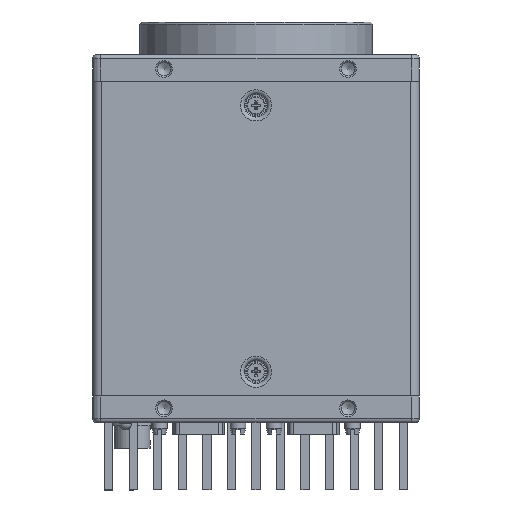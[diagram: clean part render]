
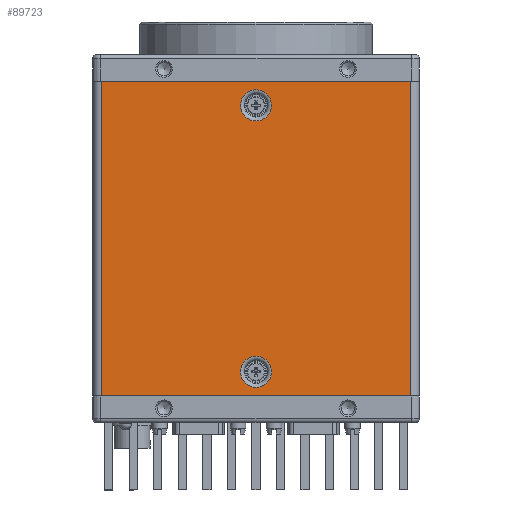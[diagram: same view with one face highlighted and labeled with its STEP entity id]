
A CAD part, front view. The second image highlights one B-rep face of the part: STEP entity #89723.
In plain terms, the highlighted planar face has unit normal (0, -1, 0).
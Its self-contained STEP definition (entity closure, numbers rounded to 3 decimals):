
#2310 = EDGE_CURVE ( 'NONE', #18532, #18532, #197748, .T. ) ;
#3753 = DIRECTION ( 'NONE',  ( 0., 1., 0. ) ) ;
#4557 = EDGE_CURVE ( 'NONE', #118723, #154666, #94814, .T. ) ;
#11563 = CARTESIAN_POINT ( 'NONE',  ( -37.9, -39.9, 5.5 ) ) ;
#13625 = LINE ( 'NONE', #69546, #224159 ) ;
#14819 = DIRECTION ( 'NONE',  ( 1., 0., 0. ) ) ;
#18532 = VERTEX_POINT ( 'NONE', #222763 ) ;
#27208 = VERTEX_POINT ( 'NONE', #11563 ) ;
#32084 = DIRECTION ( 'NONE',  ( 0., 0., 1. ) ) ;
#40086 = CARTESIAN_POINT ( 'NONE',  ( -37.9, -39.9, 82.5 ) ) ;
#49131 = CARTESIAN_POINT ( 'NONE',  ( 37.9, -39.9, 82.5 ) ) ;
#55792 = EDGE_LOOP ( 'NONE', ( #181644 ) ) ;
#56034 = LINE ( 'NONE', #133789, #225358 ) ;
#69546 = CARTESIAN_POINT ( 'NONE',  ( -37.9, -39.9, 5.5 ) ) ;
#69760 = DIRECTION ( 'NONE',  ( 0., 1., 0. ) ) ;
#72414 = EDGE_CURVE ( 'NONE', #143170, #118723, #98421, .T. ) ;
#79159 = DIRECTION ( 'NONE',  ( 0., 0., 1. ) ) ;
#84001 = CIRCLE ( 'NONE', #223837, 3.812 ) ;
#89133 = VECTOR ( 'NONE', #117857, 1000. ) ;
#89723 = ADVANCED_FACE ( 'NONE', ( #162196, #198631, #199822 ), #145132, .F. ) ;
#92912 = AXIS2_PLACEMENT_3D ( 'NONE', #96194, #3753, #79159 ) ;
#92928 = CARTESIAN_POINT ( 'NONE',  ( 0., -39.9, 76.6 ) ) ;
#94023 = EDGE_CURVE ( 'NONE', #103211, #103211, #84001, .T. ) ;
#94814 = LINE ( 'NONE', #223690, #225298 ) ;
#95796 = ORIENTED_EDGE ( 'NONE', *, *, #100319, .T. ) ;
#96008 = DIRECTION ( 'NONE',  ( 0., 0., -1. ) ) ;
#96194 = CARTESIAN_POINT ( 'NONE',  ( 0., -39.9, 11.4 ) ) ;
#98421 = LINE ( 'NONE', #40086, #89133 ) ;
#100319 = EDGE_CURVE ( 'NONE', #27208, #154666, #13625, .T. ) ;
#103211 = VERTEX_POINT ( 'NONE', #142110 ) ;
#112755 = CARTESIAN_POINT ( 'NONE',  ( -37.9, -39.9, 82.5 ) ) ;
#117857 = DIRECTION ( 'NONE',  ( 1., 0., 0. ) ) ;
#118723 = VERTEX_POINT ( 'NONE', #49131 ) ;
#133789 = CARTESIAN_POINT ( 'NONE',  ( -37.9, -39.9, 82.5 ) ) ;
#137667 = ORIENTED_EDGE ( 'NONE', *, *, #4557, .F. ) ;
#142110 = CARTESIAN_POINT ( 'NONE',  ( 0., -39.9, 80.412 ) ) ;
#143170 = VERTEX_POINT ( 'NONE', #112755 ) ;
#144416 = EDGE_LOOP ( 'NONE', ( #95796, #137667, #197935, #226775 ) ) ;
#144751 = ORIENTED_EDGE ( 'NONE', *, *, #2310, .T. ) ;
#145132 = PLANE ( 'NONE',  #222992 ) ;
#154666 = VERTEX_POINT ( 'NONE', #231687 ) ;
#162196 = FACE_BOUND ( 'NONE', #185551, .T. ) ;
#181644 = ORIENTED_EDGE ( 'NONE', *, *, #94023, .T. ) ;
#185551 = EDGE_LOOP ( 'NONE', ( #144751 ) ) ;
#186514 = DIRECTION ( 'NONE',  ( 0., 0., 1. ) ) ;
#197748 = CIRCLE ( 'NONE', #92912, 3.812 ) ;
#197935 = ORIENTED_EDGE ( 'NONE', *, *, #72414, .F. ) ;
#198631 = FACE_BOUND ( 'NONE', #55792, .T. ) ;
#199822 = FACE_OUTER_BOUND ( 'NONE', #144416, .T. ) ;
#214257 = EDGE_CURVE ( 'NONE', #143170, #27208, #56034, .T. ) ;
#222608 = DIRECTION ( 'NONE',  ( 0., 0., -1. ) ) ;
#222763 = CARTESIAN_POINT ( 'NONE',  ( 0., -39.9, 15.212 ) ) ;
#222992 = AXIS2_PLACEMENT_3D ( 'NONE', #236339, #69760, #32084 ) ;
#223006 = DIRECTION ( 'NONE',  ( 0., 1., 0. ) ) ;
#223690 = CARTESIAN_POINT ( 'NONE',  ( 37.9, -39.9, 82.5 ) ) ;
#223837 = AXIS2_PLACEMENT_3D ( 'NONE', #92928, #223006, #186514 ) ;
#224159 = VECTOR ( 'NONE', #14819, 1000. ) ;
#225298 = VECTOR ( 'NONE', #96008, 1000. ) ;
#225358 = VECTOR ( 'NONE', #222608, 1000. ) ;
#226775 = ORIENTED_EDGE ( 'NONE', *, *, #214257, .T. ) ;
#231687 = CARTESIAN_POINT ( 'NONE',  ( 37.9, -39.9, 5.5 ) ) ;
#236339 = CARTESIAN_POINT ( 'NONE',  ( -37.9, -39.9, 82.5 ) ) ;
